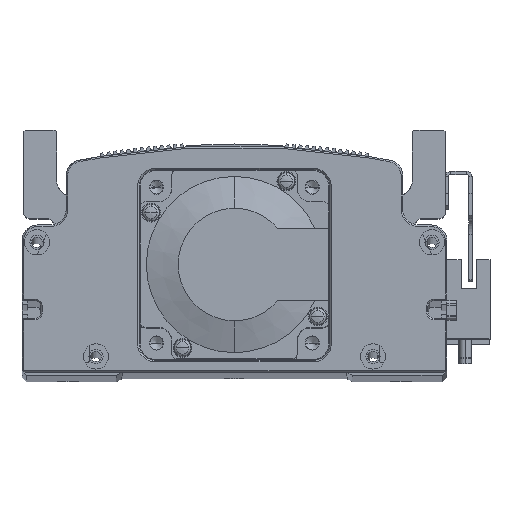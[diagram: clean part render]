
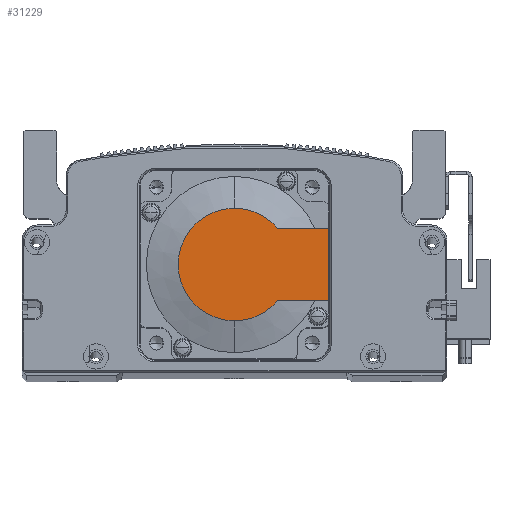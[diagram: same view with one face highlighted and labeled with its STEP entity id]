
A CAD part, top view. The second image highlights one B-rep face of the part: STEP entity #31229.
In plain terms, the highlighted planar face has unit normal (0, 0, 1) as drawn and (-1, 0, 0) by its records, which use the part's own axes.
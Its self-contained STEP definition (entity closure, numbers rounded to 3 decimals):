
#334 = ORIENTED_EDGE ( 'NONE', *, *, #33198, .T. ) ;
#1876 = DIRECTION ( 'NONE',  ( 0., 0., -1. ) ) ;
#10702 = LINE ( 'NONE', #41356, #19283 ) ;
#10773 = VERTEX_POINT ( 'NONE', #68915 ) ;
#12302 = DIRECTION ( 'NONE',  ( 0., 0., -1. ) ) ;
#13250 = CARTESIAN_POINT ( 'NONE',  ( -118.5, 0., 0. ) ) ;
#14414 = EDGE_CURVE ( 'NONE', #10773, #23103, #10702, .T. ) ;
#14574 = DIRECTION ( 'NONE',  ( 0., -1., 0. ) ) ;
#14719 = VERTEX_POINT ( 'NONE', #32901 ) ;
#15547 = CARTESIAN_POINT ( 'NONE',  ( -118.5, -8.941, -11.45 ) ) ;
#16300 = DIRECTION ( 'NONE',  ( 0., 0., 1. ) ) ;
#16553 = PLANE ( 'NONE',  #21396 ) ;
#19283 = VECTOR ( 'NONE', #14574, 1000. ) ;
#21396 = AXIS2_PLACEMENT_3D ( 'NONE', #64839, #21567, #16300 ) ;
#21567 = DIRECTION ( 'NONE',  ( -1., 0., 0. ) ) ;
#22512 = ORIENTED_EDGE ( 'NONE', *, *, #30832, .T. ) ;
#22705 = CARTESIAN_POINT ( 'NONE',  ( -118.5, 0., 0. ) ) ;
#23103 = VERTEX_POINT ( 'NONE', #37951 ) ;
#28096 = CARTESIAN_POINT ( 'NONE',  ( -118.5, 13.735, -11.45 ) ) ;
#29035 = DIRECTION ( 'NONE',  ( -1., 0., 0. ) ) ;
#30832 = EDGE_CURVE ( 'NONE', #14719, #67746, #44983, .T. ) ;
#31229 = ADVANCED_FACE ( 'NONE', ( #56879 ), #16553, .T. ) ;
#32901 = CARTESIAN_POINT ( 'NONE',  ( -118.5, 0., -17.881 ) ) ;
#33198 = EDGE_CURVE ( 'NONE', #52450, #14719, #69434, .T. ) ;
#35870 = VECTOR ( 'NONE', #65019, 1000. ) ;
#36827 = AXIS2_PLACEMENT_3D ( 'NONE', #22705, #39198, #1876 ) ;
#37951 = CARTESIAN_POINT ( 'NONE',  ( -118.5, 13.735, 11.45 ) ) ;
#39198 = DIRECTION ( 'NONE',  ( -1., 0., 0. ) ) ;
#41356 = CARTESIAN_POINT ( 'NONE',  ( -118.5, 0., 11.45 ) ) ;
#41848 = LINE ( 'NONE', #60298, #44421 ) ;
#44076 = DIRECTION ( 'NONE',  ( 0., 0., 1. ) ) ;
#44421 = VECTOR ( 'NONE', #44076, 1000. ) ;
#44983 = CIRCLE ( 'NONE', #59399, 17.881 ) ;
#46429 = ORIENTED_EDGE ( 'NONE', *, *, #14414, .F. ) ;
#46859 = EDGE_CURVE ( 'NONE', #67746, #23103, #65946, .T. ) ;
#47501 = CARTESIAN_POINT ( 'NONE',  ( -118.5, 0., 17.881 ) ) ;
#48442 = DIRECTION ( 'NONE',  ( -1., 0., 0. ) ) ;
#49759 = CARTESIAN_POINT ( 'NONE',  ( -118.5, 30., -11.45 ) ) ;
#52450 = VERTEX_POINT ( 'NONE', #28096 ) ;
#55913 = EDGE_CURVE ( 'NONE', #65135, #52450, #63250, .T. ) ;
#56879 = FACE_OUTER_BOUND ( 'NONE', #58161, .T. ) ;
#58161 = EDGE_LOOP ( 'NONE', ( #65356, #334, #22512, #67658, #46429, #68352 ) ) ;
#58576 = AXIS2_PLACEMENT_3D ( 'NONE', #64425, #48442, #59149 ) ;
#59149 = DIRECTION ( 'NONE',  ( 0., 0., -1. ) ) ;
#59399 = AXIS2_PLACEMENT_3D ( 'NONE', #13250, #29035, #12302 ) ;
#60298 = CARTESIAN_POINT ( 'NONE',  ( -118.5, 30., 25. ) ) ;
#63250 = LINE ( 'NONE', #15547, #35870 ) ;
#64425 = CARTESIAN_POINT ( 'NONE',  ( -118.5, 0., 0. ) ) ;
#64839 = CARTESIAN_POINT ( 'NONE',  ( -118.5, -8.941, 0. ) ) ;
#65019 = DIRECTION ( 'NONE',  ( 0., -1., 0. ) ) ;
#65135 = VERTEX_POINT ( 'NONE', #49759 ) ;
#65356 = ORIENTED_EDGE ( 'NONE', *, *, #55913, .T. ) ;
#65946 = CIRCLE ( 'NONE', #36827, 17.881 ) ;
#67658 = ORIENTED_EDGE ( 'NONE', *, *, #46859, .T. ) ;
#67746 = VERTEX_POINT ( 'NONE', #47501 ) ;
#67954 = EDGE_CURVE ( 'NONE', #65135, #10773, #41848, .T. ) ;
#68352 = ORIENTED_EDGE ( 'NONE', *, *, #67954, .F. ) ;
#68915 = CARTESIAN_POINT ( 'NONE',  ( -118.5, 30., 11.45 ) ) ;
#69434 = CIRCLE ( 'NONE', #58576, 17.881 ) ;
